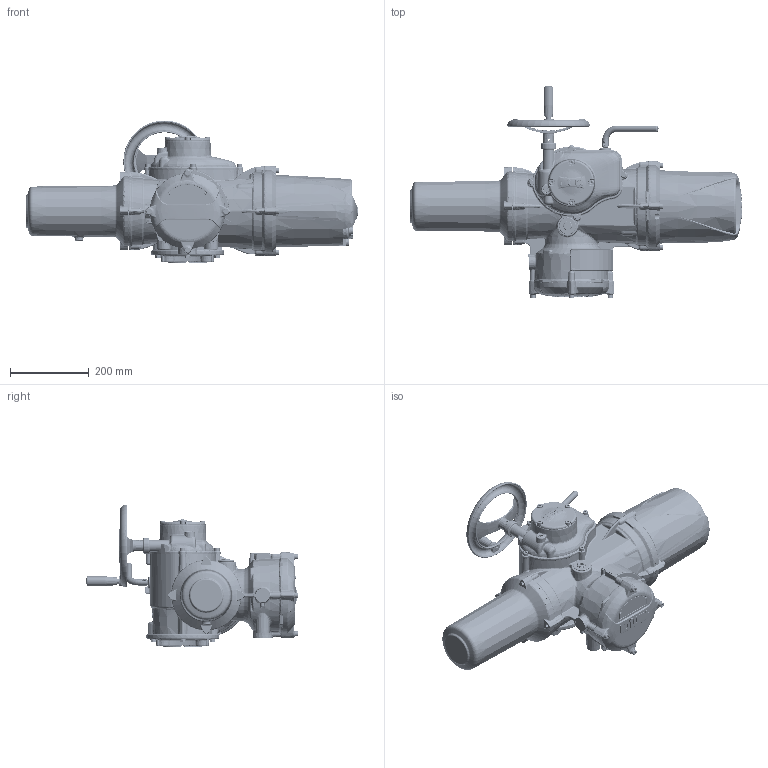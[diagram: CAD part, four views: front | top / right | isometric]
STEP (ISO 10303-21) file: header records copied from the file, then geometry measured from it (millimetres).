
FILE_DESCRIPTION(/* description */ ('Unknown'),/* implementation_level */ '2;1');
FILE_NAME(/* name */ 'IQ3H-2SP-SHW-B3B4-1',/* time_stamp */ '2021-03-29T10:43:05+01:00',/* author */ ('Unknown'),/* organization */ ('Unknown'),/* preprocessor_version */ 'ST-DEVELOPER v16.7',/* originating_system */ 'Solid Edge',/* authorisation */ 'Unknown');
FILE_SCHEMA (('AUTOMOTIVE_DESIGN {1 0 10303 214 3 1 1}'));
Length unit declared in the file: millimetre
Products named in the file (1): IQ3H-2SP-SHW-B3B4-1
Bounding box: 843.5 x 537.85 x 363.3 mm (x, y, z)
Volume: 550759.5 mm3; surface area: 1181768.6 mm2
Topology: 39 solids, 41 shells, 6281 faces, 15745 edges, 9351 vertices
Faces by surface type: bspline 2558, plane 1504, cylinder 787, torus 688, cone 534, sphere 210
Full cylindrical faces by diameter (mm): 1.152 x1, 3 x8, 6 x3, 6.2 x2, 6.45 x8, 6.47 x8, 6.5 x1, 7 x4, 7.6 x4, 8 x16, 8.1 x1, 8.2 x1, 8.5 x4, 9.7 x2, 10 x1, 11.78 x1, 12.1 x1, 13 x12, 13.25 x4, 14.376 x5, 15.5 x1, 15.84 x1, 16 x3, 16.75 x1, 17.02 x1, 24.75 x1, 24.78 x1, 26 x1, 29 x1, 30 x1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
Entity records: 278685 total; most frequent: CARTESIAN_POINT 109152, ORIENTED_EDGE 29766, DIRECTION 21217, EDGE_CURVE 14883, VERTEX_POINT 9106, AXIS2_PLACEMENT_3D 9086, FACE_BOUND 6813, EDGE_LOOP 6792
